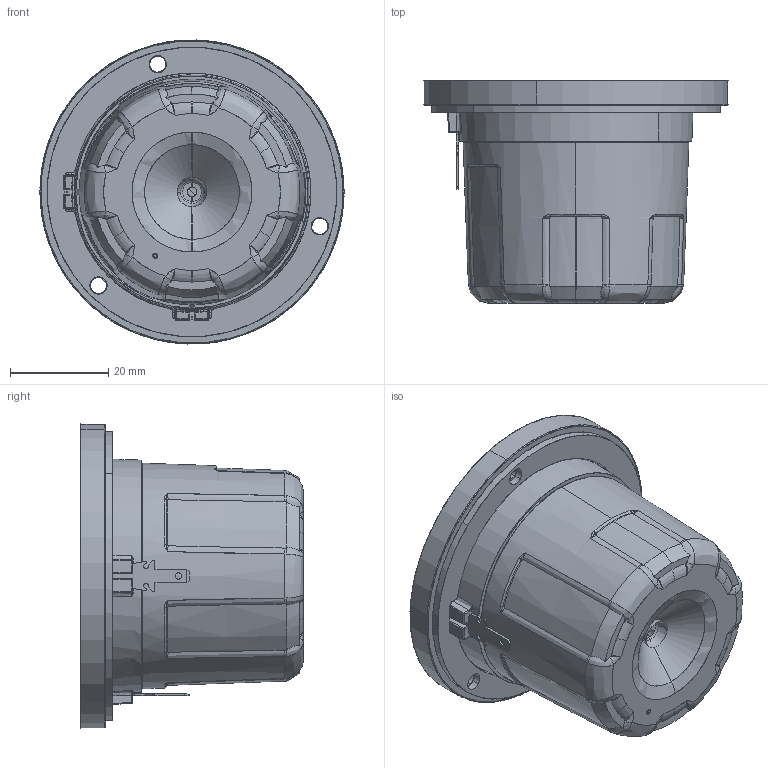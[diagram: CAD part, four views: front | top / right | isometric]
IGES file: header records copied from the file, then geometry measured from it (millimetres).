
Start section: SolidWorks IGES file using analytic representation for surfaces
Global section: file name: W:\TT\WEB 3D ENHEDER VER2\D3004_606200\D3004-606200.IGS; native system: SolidWorks 2024; preprocessor: SolidWorks 2024; author: jsn; date: 240408.102951; units: millimetre
Bounding box: 62 x 45.3 x 61.97 mm (x, y, z)
Surface area: 15781.6 mm2 (no closed solid volume)
Topology: 0 solids, 0 shells, 574 faces, 6027 edges, 5988 vertices
Faces by surface type: bspline 374, revolution 200
